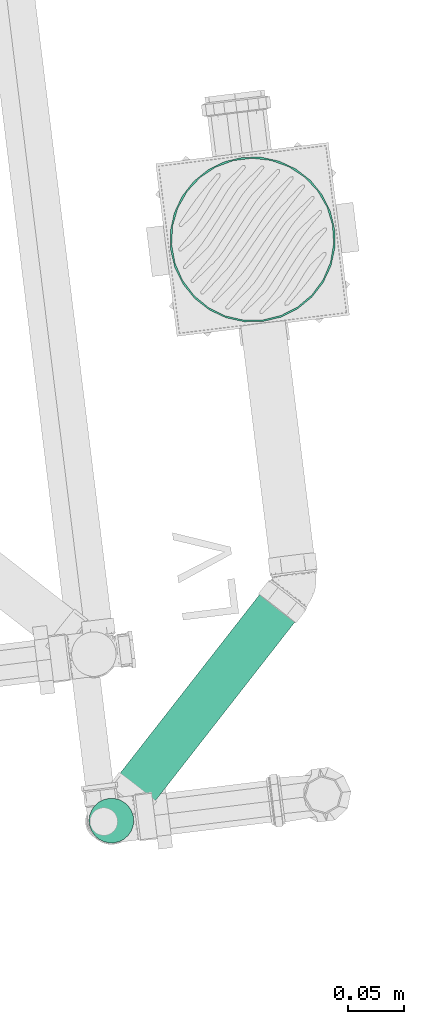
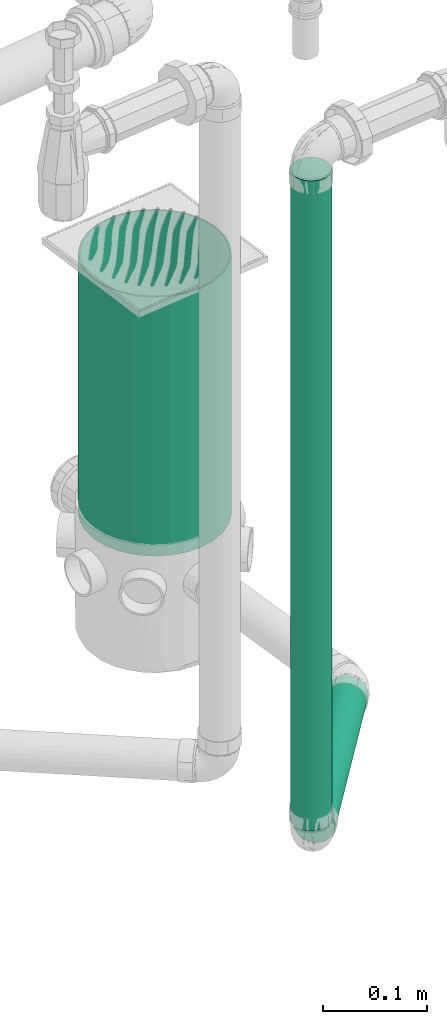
# One storey, part 14 of 97: 2 flow segments, 1 flow terminal.
"""IFC2X3 building model written with IfcOpenShell, lengths in centimetres."""

import ifcopenshell
import ifcopenshell.guid

model = None  # the IFC model being written
_history = None  # IfcOwnerHistory: only IFC2X3 demands one
_inside = {}  # id of a spatial element -> (the spatial element, [elements in it])
_under = {}  # id of a project, library or spatial element -> (it, [spatial elements below it])
_declared = {}  # id of a project -> (the project, [libraries it declares])
_typed = {}  # id of a type object -> (the type object, [elements of that type])
_made_of = {}  # id of a material, layer set ... -> (it, [elements and type objects made of it])


def new_model(schema):
    """Start an empty IFC model of exactly this schema.

    Asked for "IFC4X3", IfcOpenShell would pick the latest addendum, in which some entities
    have other attributes; the version numbers below select the first issue.
    IFC2X3 requires an IfcOwnerHistory on every rooted entity: one is made here for all.
    """
    global model, _history
    if schema == "IFC4X3":
        model = ifcopenshell.file(schema_version=(4, 3, 0, 0))
    else:
        model = ifcopenshell.file(schema=schema)
    _inside.clear()
    _under.clear()
    _declared.clear()
    _typed.clear()
    _made_of.clear()
    _history = None
    if model.schema == "IFC2X3":
        org = make("IfcOrganization", Name="unknown")
        user = make(
            "IfcPersonAndOrganization",
            ThePerson=make("IfcPerson", FamilyName="unknown"),
            TheOrganization=org,
        )
        app = make(
            "IfcApplication",
            ApplicationDeveloper=org,
            Version="unknown",
            ApplicationFullName="unknown",
            ApplicationIdentifier="unknown",
        )
        _history = make(
            "IfcOwnerHistory",
            OwningUser=user,
            OwningApplication=app,
            ChangeAction="ADDED",
            CreationDate=0,
        )
    return model


def make(cls, **values):
    """One entity of the class cls with the attributes given. An attribute that is None is left unset."""
    return model.create_entity(
        cls, **{name: value for name, value in values.items() if value is not None}
    )


def entity(cls, *values):
    """Any entity or typed value of the class cls, its attributes in the order of the schema. None: left unset."""
    e = model.create_entity(cls)
    for i, value in enumerate(values):
        if value is not None:
            e[i] = value
    return e


def rooted(cls, **values):
    """An entity with a GlobalId (a new one), such as an element, a storey or a relation."""
    return make(cls, GlobalId=ifcopenshell.guid.new(), OwnerHistory=_history, **values)


def si_unit(unit_type, name, prefix=None):
    """IfcSIUnit, for example si_unit("LENGTHUNIT", "METRE", prefix="MILLI")."""
    return make("IfcSIUnit", UnitType=unit_type, Prefix=prefix, Name=name)


def converted_unit(unit_type, name, factor, base, dimensions=None, offset=None):
    """IfcConversionBasedUnit, such as the inch: factor (a typed value) times the base unit."""
    return make(
        "IfcConversionBasedUnit"
        if offset is None
        else "IfcConversionBasedUnitWithOffset",
        ConversionOffset=offset,
        Dimensions=None
        if dimensions is None
        else entity("IfcDimensionalExponents", *dimensions),
        UnitType=unit_type,
        Name=name,
        ConversionFactor=make(
            "IfcMeasureWithUnit", ValueComponent=factor, UnitComponent=base
        ),
    )


def derived_unit(unit_type, elements):
    """IfcDerivedUnit: a product of units, each with its exponent."""
    return make(
        "IfcDerivedUnit",
        Elements=[
            make("IfcDerivedUnitElement", Unit=unit, Exponent=power)
            for unit, power in elements
        ],
        UnitType=unit_type,
    )


def assignment(units):
    """IfcUnitAssignment: the units of a project."""
    return None if units is None else make("IfcUnitAssignment", Units=units)


def point(xyz):
    """IfcCartesianPoint."""
    return None if xyz is None else make("IfcCartesianPoint", Coordinates=xyz)


def direction(xyz):
    """IfcDirection."""
    return None if xyz is None else make("IfcDirection", DirectionRatios=xyz)


def frame(location, z_axis=None, x_axis=None):
    """IfcAxis2Placement3D, a coordinate frame: its origin and axes. An axis left out is left unset."""
    return make(
        "IfcAxis2Placement3D",
        Location=point(location),
        Axis=direction(z_axis),
        RefDirection=direction(x_axis),
    )


def frame_2d(location, x_axis=None):
    """IfcAxis2Placement2D, a coordinate frame in the plane: its origin and x axis."""
    return make(
        "IfcAxis2Placement2D", Location=point(location), RefDirection=direction(x_axis)
    )


def origin():
    """The frame at (0, 0, 0) with its axes left unset."""
    return frame((0.0, 0.0, 0.0))


def origin_2d_with_axis():
    """The frame at (0, 0) in the plane with the x axis (1, 0) written out."""
    return frame_2d((0.0, 0.0), x_axis=(1.0, 0.0))


def place(relative_to, where):
    """IfcLocalPlacement: puts the frame where relative to a parent placement (None: the world)."""
    return make(
        "IfcLocalPlacement", PlacementRelTo=relative_to, RelativePlacement=where
    )


def context(
    kind, dimensions, precision=None, world=None, true_north=None, identifier=None
):
    """IfcGeometricRepresentationContext, for example the 3D "Model" context."""
    return make(
        "IfcGeometricRepresentationContext",
        ContextIdentifier=identifier,
        ContextType=kind,
        CoordinateSpaceDimension=dimensions,
        Precision=precision,
        WorldCoordinateSystem=world,
        TrueNorth=true_north,
    )


def subcontext(parent, identifier, kind, view, scale=None):
    """IfcGeometricRepresentationSubContext, for example "Body" below "Model"."""
    return make(
        "IfcGeometricRepresentationSubContext",
        ContextIdentifier=identifier,
        ContextType=kind,
        ParentContext=parent,
        TargetScale=scale,
        TargetView=view,
    )


def project(units=None, contexts=None):
    """IfcProject with its units and contexts."""
    return rooted(
        "IfcProject",
        Name="project",
        RepresentationContexts=contexts,
        UnitsInContext=assignment(units),
    )


def spatial(cls, under=None, at=None, **own):
    """A site, building, storey or space (cls), placed at a placement, below another one or the project."""
    s = rooted(cls, ObjectPlacement=at, **own)
    if under is not None:
        _under.setdefault(under.id(), (under, []))[1].append(s)
    return s


def profile(cls, at=None, kind="AREA", **sizes):
    """A parametric profile (cls). Its sizes go by their IFC names, for example OverallWidth=200.0."""
    return make(cls, ProfileType=kind, Position=at, **sizes)


def circle(**sizes):
    """IfcCircleProfileDef."""
    return profile("IfcCircleProfileDef", **sizes)


def hollow_circle(**sizes):
    """IfcCircleHollowProfileDef."""
    return profile("IfcCircleHollowProfileDef", **sizes)


def extrude(swept, where, along, depth):
    """IfcExtrudedAreaSolid: the profile swept, set in the frame where, extruded along a direction by depth."""
    return make(
        "IfcExtrudedAreaSolid",
        SweptArea=swept,
        Position=where,
        ExtrudedDirection=direction(along),
        Depth=depth,
    )


def shape(context_of_items, identifier, shape_type, items):
    """IfcShapeRepresentation: the items that make up one representation, for example the "Body"."""
    return make(
        "IfcShapeRepresentation",
        ContextOfItems=context_of_items,
        RepresentationIdentifier=identifier,
        RepresentationType=shape_type,
        Items=items,
    )


def source(mapping_origin, context_of_items, identifier, shape_type, items):
    """IfcRepresentationMap: a shape defined once, which mapped items show again and again."""
    return make(
        "IfcRepresentationMap",
        MappingOrigin=mapping_origin,
        MappedRepresentation=shape(context_of_items, identifier, shape_type, items),
    )


def transform(
    local_origin,
    x_axis=None,
    y_axis=None,
    z_axis=None,
    scale=None,
    scale2=None,
    scale3=None,
    uniform=True,
):
    """IfcCartesianTransformationOperator3D, or its non-uniform kind. x_axis, y_axis, z_axis: its Axis1, 2, 3."""
    if uniform:
        return make(
            "IfcCartesianTransformationOperator3D",
            Axis1=direction(x_axis),
            Axis2=direction(y_axis),
            LocalOrigin=point(local_origin),
            Scale=scale,
            Axis3=direction(z_axis),
        )
    return make(
        "IfcCartesianTransformationOperator3DnonUniform",
        Axis1=direction(x_axis),
        Axis2=direction(y_axis),
        LocalOrigin=point(local_origin),
        Scale=scale,
        Axis3=direction(z_axis),
        Scale2=scale2,
        Scale3=scale3,
    )


def mapped(mapping_source, mapping_target):
    """IfcMappedItem: shows the shape of a source again, moved by a transform."""
    return make(
        "IfcMappedItem", MappingSource=mapping_source, MappingTarget=mapping_target
    )


def material(Name=None, Category=None):
    """IfcMaterial."""
    return make("IfcMaterial", Name=Name, Category=Category)


def made_of(thing, what):
    """Note that an element or type object is made of a material, layer set ...; save() writes the relation."""
    if what is not None:
        _made_of.setdefault(what.id(), (what, []))[1].append(thing)
    return thing


def type_object(cls, material=None, **own):
    """A type object (cls), such as IfcWallType, which elements share."""
    return made_of(rooted(cls, **own), material)


def type_shapes(of_type, sources):
    """Give a type object the sources (RepresentationMaps) that its elements show as mapped items."""
    of_type.RepresentationMaps = sources


def element(
    cls,
    number,
    at=None,
    inside=None,
    cuts=None,
    type_object=None,
    material=None,
    context=None,
    identifier="Body",
    shape_type=None,
    held_by="IfcProductDefinitionShape",
    body=None,
    shapes=None,
    **own,
):
    """One element of the class cls, such as IfcWall. Its Tag is "e" and its number.

    at: its placement. inside: the storey or other place that contains it. cuts: it is an
    opening in that element (IfcRelVoidsElement). A single representation is given by context,
    identifier, shape_type and body (its items); several are given by shapes. held_by: the class
    of the entity that holds the representations. save() writes the other relations.
    """
    e = rooted(cls, Tag="e%d" % number, ObjectPlacement=at, **own)
    if body is not None:
        shapes = [shape(context, identifier, shape_type, body)]
    if shapes is not None:
        e.Representation = make(held_by, Representations=shapes)
    if inside is not None:
        _inside.setdefault(inside.id(), (inside, []))[1].append(e)
    if cuts is not None:
        rooted(
            "IfcRelVoidsElement", RelatingBuildingElement=cuts, RelatedOpeningElement=e
        )
    if type_object is not None:
        _typed.setdefault(type_object.id(), (type_object, []))[1].append(e)
    return made_of(e, material)


def aggregate(whole, parts):
    """IfcRelAggregates: a whole, such as a stair, and the parts it consists of."""
    return rooted("IfcRelAggregates", RelatingObject=whole, RelatedObjects=parts)


def save(model, path):
    """Write the relations noted so far, then the file.

    IfcRelAggregates (storeys below a building ...), IfcRelContainedInSpatialStructure (elements
    in a storey), IfcRelDefinesByType, IfcRelAssociatesMaterial and IfcRelDeclares: one each for
    every whole, place, type object, material and project.
    """
    for whole, parts in _under.values():
        aggregate(whole, parts)
    for where, things in _inside.values():
        rooted(
            "IfcRelContainedInSpatialStructure",
            RelatedElements=things,
            RelatingStructure=where,
        )
    for kind, things in _typed.values():
        rooted("IfcRelDefinesByType", RelatedObjects=things, RelatingType=kind)
    for what, things in _made_of.values():
        rooted("IfcRelAssociatesMaterial", RelatedObjects=things, RelatingMaterial=what)
    for by, libraries in _declared.values():
        rooted("IfcRelDeclares", RelatingContext=by, RelatedDefinitions=libraries)
    model.write(path)


model = new_model("IFC2X3")

# Units and contexts
model_context = context("Model", 3, precision=0.001, world=origin(), true_north=direction((6.12303176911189e-17, 1.0)))
body_context = subcontext(model_context, "Body", "Model", "MODEL_VIEW")
ifc_project = project(units=[si_unit("LENGTHUNIT", "METRE", prefix="CENTI"), si_unit("AREAUNIT", "SQUARE_METRE"), si_unit("VOLUMEUNIT", "CUBIC_METRE"), converted_unit("PLANEANGLEUNIT", "DEGREE", entity("IfcRatioMeasure", 0.0174532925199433), si_unit("PLANEANGLEUNIT", "RADIAN"), dimensions=[0, 0, 0, 0, 0, 0, 0]), si_unit("MASSUNIT", "GRAM", prefix="KILO"), derived_unit("MASSDENSITYUNIT", [(si_unit("MASSUNIT", "GRAM", prefix="KILO"), 1), (si_unit("LENGTHUNIT", "METRE"), -3)]), derived_unit("MOMENTOFINERTIAUNIT", [(si_unit("LENGTHUNIT", "METRE"), 4)]), si_unit("TIMEUNIT", "SECOND"), si_unit("FREQUENCYUNIT", "HERTZ"), si_unit("THERMODYNAMICTEMPERATUREUNIT", "DEGREE_CELSIUS"), derived_unit("THERMALTRANSMITTANCEUNIT", [(si_unit("MASSUNIT", "GRAM", prefix="KILO"), 1), (si_unit("THERMODYNAMICTEMPERATUREUNIT", "KELVIN"), -1), (si_unit("TIMEUNIT", "SECOND"), -3)]), derived_unit("VOLUMETRICFLOWRATEUNIT", [(si_unit("LENGTHUNIT", "METRE"), 3), (si_unit("TIMEUNIT", "SECOND"), -1)]), si_unit("ELECTRICCURRENTUNIT", "AMPERE"), si_unit("ELECTRICVOLTAGEUNIT", "VOLT"), si_unit("POWERUNIT", "WATT"), si_unit("FORCEUNIT", "NEWTON", prefix="KILO"), si_unit("ILLUMINANCEUNIT", "LUX"), si_unit("LUMINOUSFLUXUNIT", "LUMEN"), si_unit("LUMINOUSINTENSITYUNIT", "CANDELA"), derived_unit("USERDEFINED", [(si_unit("MASSUNIT", "GRAM", prefix="KILO"), -1), (si_unit("LENGTHUNIT", "METRE"), -2), (si_unit("TIMEUNIT", "SECOND"), 3), (si_unit("LUMINOUSFLUXUNIT", "LUMEN"), 1)]), derived_unit("LINEARVELOCITYUNIT", [(si_unit("LENGTHUNIT", "METRE"), 1), (si_unit("TIMEUNIT", "SECOND"), -1)]), si_unit("PRESSUREUNIT", "PASCAL"), derived_unit("USERDEFINED", [(si_unit("LENGTHUNIT", "METRE"), -2), (si_unit("MASSUNIT", "GRAM", prefix="KILO"), 1), (si_unit("TIMEUNIT", "SECOND"), -2)]), derived_unit("LINEARFORCEUNIT", [(si_unit("MASSUNIT", "GRAM", prefix="KILO"), 1), (si_unit("LENGTHUNIT", "METRE"), 1), (si_unit("TIMEUNIT", "SECOND"), -2), (si_unit("LENGTHUNIT", "METRE"), -1)]), derived_unit("PLANARFORCEUNIT", [(si_unit("MASSUNIT", "GRAM", prefix="KILO"), 1), (si_unit("LENGTHUNIT", "METRE"), 1), (si_unit("TIMEUNIT", "SECOND"), -2), (si_unit("LENGTHUNIT", "METRE"), -2)])], contexts=[model_context])

# Site, building, storey
site_placement = place(None, origin())
site = spatial("IfcSite", under=ifc_project, at=site_placement, Name="Default", CompositionType="ELEMENT")
building_placement = place(site_placement, origin())
building = spatial("IfcBuilding", under=site, at=building_placement, Name="HIDROSSANITÁRIO", CompositionType="ELEMENT")
storey_placement = place(building_placement, frame((0.0, 0.0, -260.0)))
storey = spatial("IfcBuildingStorey", under=building, at=storey_placement, Name="TÉRREO-HID", CompositionType="ELEMENT", Elevation=-260.0)

# Flow segments
pipe_segment_type = type_object("IfcPipeSegmentType", Name="Tipos de tubos:Tubo - Esgoto - Série Normal", PredefinedType="NOTDEFINED")
flow_segment_1_placement = place(storey_placement, origin())
element("IfcFlowSegment", 1, at=flow_segment_1_placement, inside=storey, type_object=pipe_segment_type, Name="Tipos de tubos:Tubo - Esgoto - Série Normal", ObjectType="Tipos de tubos:Tubo - Esgoto - Série Normal", context=body_context, shape_type="SweptSolid", body=[
    extrude(circle(Radius=2.0, at=origin_2d_with_axis()), frame((-1652.8959744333, 2760.78534655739, -31.7055672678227), z_axis=(-0.615313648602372, -0.788028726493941, 0.0199960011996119), x_axis=(0.788186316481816, -0.61543669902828, 0.0)), (0.0, 0.0, 1.0), 23.23794222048),
])
flow_segment_2_placement = place(storey_placement, origin())
element("IfcFlowSegment", 2, at=flow_segment_2_placement, inside=storey, type_object=pipe_segment_type, Name="Tipos de tubos:Tubo - Esgoto - Série Normal", ObjectType="Tipos de tubos:Tubo - Esgoto - Série Normal", context=body_context, shape_type="SweptSolid", body=[
    extrude(circle(Radius=2.0, at=origin_2d_with_axis()), frame((-1668.63345916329, 2740.63043844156, -28.8557223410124)), (0.0, 0.0, 1.0), 76.4797416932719),
])

# Flow terminal
ifc_material = material(Name="Tigre - Caixas e Ralos_PVC Branco")
distribution_element_type = type_object("IfcDistributionElementType", Name="Prolongamento para Caixa Sifonada - Caixas e Ralos - Esgoto - MEP - Tigre:150 x 150 mm", material=ifc_material)
shared_shape = source(origin(), body_context, "Body", "SweptSolid", [
    extrude(hollow_circle(Radius=7.4, WallThickness=0.148000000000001, at=frame_2d((1.44328993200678e-17, 1.19550298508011e-14), x_axis=(1.0, 0.0))), frame((0.0, 0.0, -30.4999999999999)), (0.0, 0.0, 1.0), 30.4999999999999),
])
type_shapes(distribution_element_type, [shared_shape])
flow_terminal_placement = place(storey_placement, frame((-1656.00719587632, 2792.60837852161, 1.79999999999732), z_axis=(0.0, 0.0, 1.0), x_axis=(0.122152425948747, -0.992511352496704, 0.0)))
element("IfcFlowTerminal", 3, at=flow_terminal_placement, inside=storey, type_object=distribution_element_type, material=ifc_material, Name="Prolongamento para Caixa Sifonada - Caixas e Ralos - Esgoto - MEP - Tigre:150 x 150 mm", ObjectType="Prolongamento para Caixa Sifonada - Caixas e Ralos - Esgoto - MEP - Tigre:150 x 150 mm", context=body_context, shape_type="MappedRepresentation", body=[
    mapped(shared_shape, transform((0.0, 0.0, 0.0), scale=1.0)),
])

save(model, "model.ifc")
